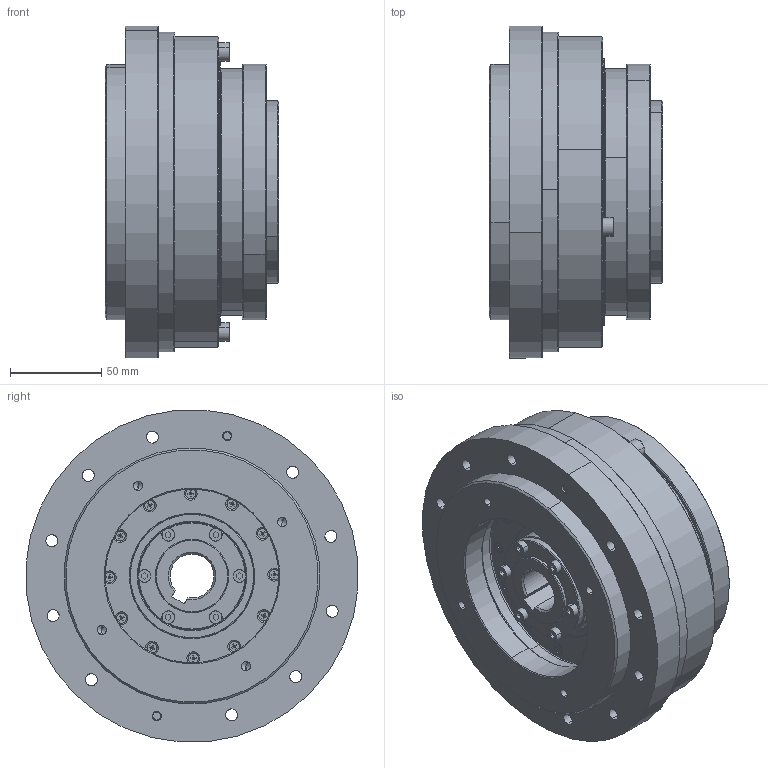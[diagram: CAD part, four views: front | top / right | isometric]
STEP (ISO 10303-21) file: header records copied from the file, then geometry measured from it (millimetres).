
FILE_DESCRIPTION (( 'STEP AP214' ), '1' );
FILE_NAME ('LHSG-40-XXX-RDP--24-45-95-115-M6.step', '2022-08-03T03:59:04', ( 'Sysceo.com' ), ( '' ), 'SwSTEP 2.0', 'SolidWorks 2020', '' );
FILE_SCHEMA (( 'AUTOMOTIVE_DESIGN' ));
Length unit declared in the file: millimetre
Products named in the file (1): LHSG-40-XXX-RDP--24-45-95-115-M6
Bounding box: 95 x 181.53 x 181.53 mm (x, y, z)
Volume: 1281706.1 mm3; surface area: 492399.4 mm2
Topology: 107 solids, 107 shells, 2174 faces, 5136 edges, 2974 vertices
Faces by surface type: cylinder 681, plane 659, cone 450, sphere 228, torus 156
Entity records: 84712 total; most frequent: DIRECTION 11376, CARTESIAN_POINT 10295, ORIENTED_EDGE 9328, AXIS2_PLACEMENT_3D 4711, EDGE_CURVE 4664, VERTEX_POINT 2866, EDGE_LOOP 2618, CIRCLE 2536
